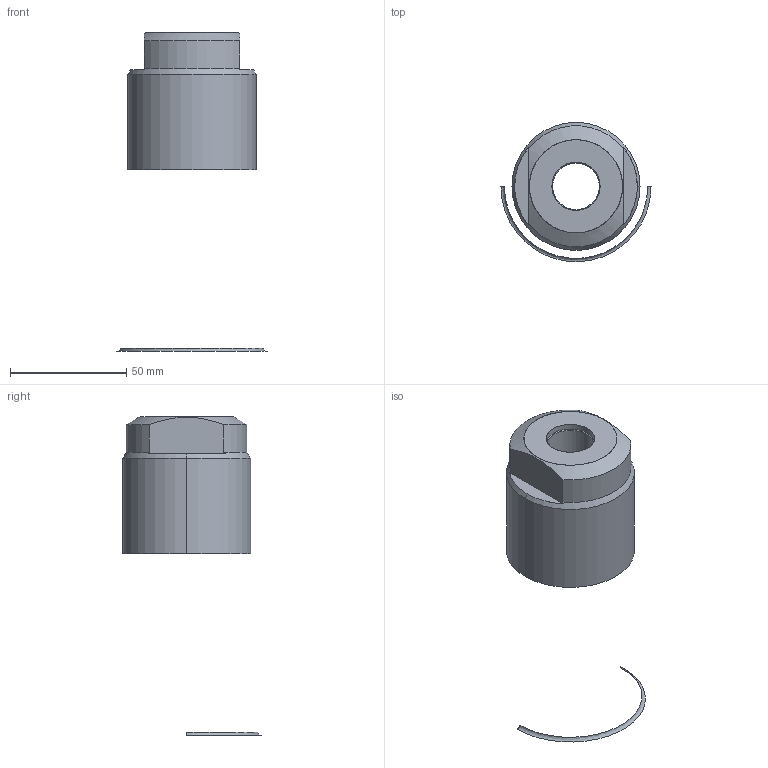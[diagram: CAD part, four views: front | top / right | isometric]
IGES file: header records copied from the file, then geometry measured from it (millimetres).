
Start section: SolidWorks IGES file using analytic representation for surfaces
Global section: file name: D:\abhilash\nijil\cylinder\Clasys1\dp converted\09\pt\0903\0102-0903.IGS; native system: SolidWorks 2010; preprocessor: SolidWorks 2010; author: nidheesh; date: 130730.113101; units: millimetre
Bounding box: 64.43 x 59.66 x 137 mm (x, y, z)
Surface area: 13017.3 mm2 (no closed solid volume)
Topology: 0 solids, 0 shells, 20 faces, 248 edges, 248 vertices
Faces by surface type: revolution 14, bspline 6
